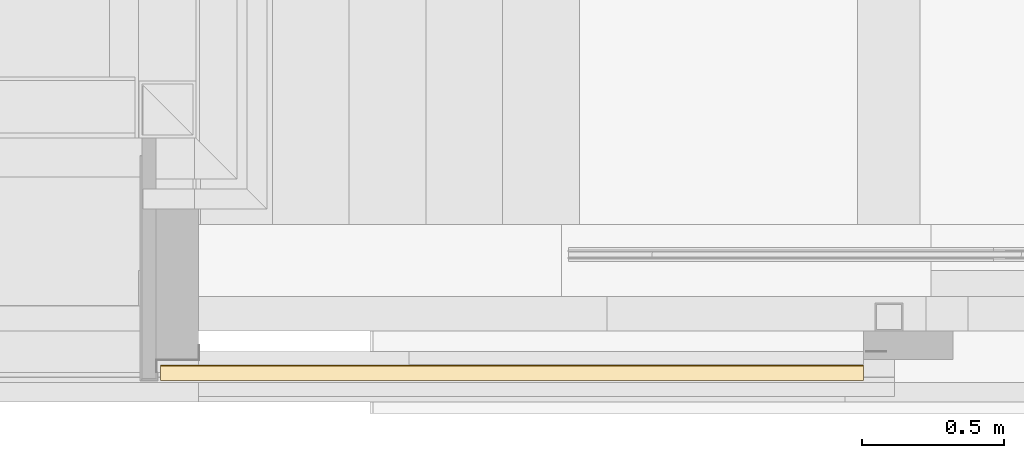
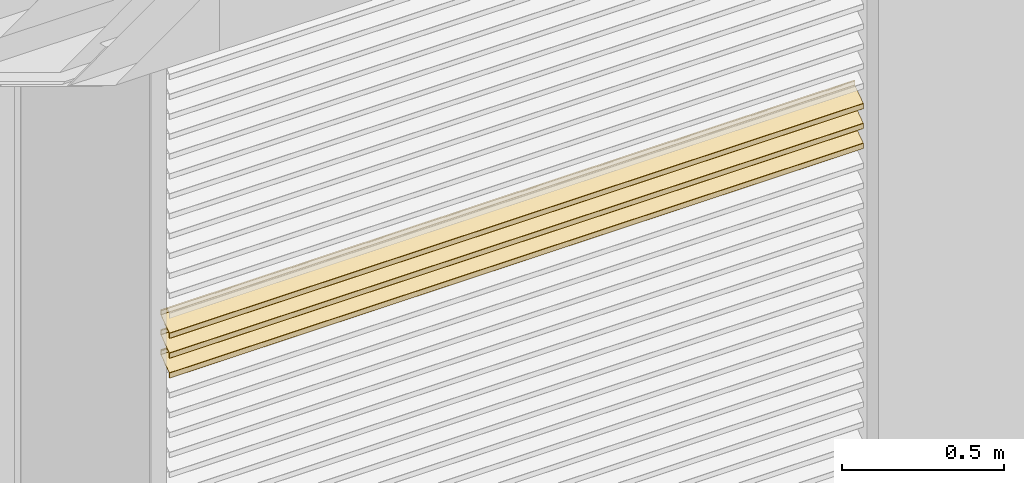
# One storey, part 107 of 165: 3 coverings, 1 element without a shape of its own.
"""IFC2X3 building model written with IfcOpenShell, lengths in millimetres."""

from ifc_helpers import new_model, entity, si_unit, converted_unit, derived_unit, money_unit, direction, frame, origin_with_axes, place, context, subcontext, project, spatial, faceted_brep, material, type_object, element, aggregate, save


model = new_model("IFC2X3")

# Units and contexts
model_context = context("Model", 3, precision=0.01, world=origin_with_axes(), true_north=direction((0.0, 1.0)))
body_context = subcontext(model_context, "Body", "Model", "MODEL_VIEW")
ifc_project = project(units=[si_unit("LENGTHUNIT", "METRE", prefix="MILLI"), si_unit("AREAUNIT", "SQUARE_METRE"), si_unit("VOLUMEUNIT", "CUBIC_METRE"), converted_unit("PLANEANGLEUNIT", "DEGREE", entity("IfcPlaneAngleMeasure", 0.0174532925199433), si_unit("PLANEANGLEUNIT", "RADIAN"), dimensions=[0, 0, 0, 0, 0, 0, 0]), money_unit("EUR"), converted_unit("TIMEUNIT", "Year", entity("IfcTimeMeasure", 31556926.0), si_unit("TIMEUNIT", "SECOND"), dimensions=[0, 0, 1, 0, 0, 0, 0]), si_unit("MASSUNIT", "GRAM", prefix="KILO"), si_unit("THERMODYNAMICTEMPERATUREUNIT", "DEGREE_CELSIUS"), si_unit("LUMINOUSINTENSITYUNIT", "LUMEN"), si_unit("ENERGYUNIT", "JOULE", prefix="MEGA"), derived_unit("THERMALCONDUCTANCEUNIT", [(si_unit("POWERUNIT", "WATT"), 1), (si_unit("LENGTHUNIT", "METRE"), -1), (si_unit("THERMODYNAMICTEMPERATUREUNIT", "KELVIN"), -1)]), derived_unit("SPECIFICHEATCAPACITYUNIT", [(si_unit("ENERGYUNIT", "JOULE"), 1), (si_unit("MASSUNIT", "GRAM", prefix="KILO"), -1), (si_unit("THERMODYNAMICTEMPERATUREUNIT", "KELVIN"), -1)]), derived_unit("MASSDENSITYUNIT", [(si_unit("MASSUNIT", "GRAM", prefix="KILO"), 1), (si_unit("VOLUMEUNIT", "CUBIC_METRE"), -1)])], contexts=[model_context])

# Site, building, storey
site_placement = place(None, origin_with_axes())
site = spatial("IfcSite", under=ifc_project, at=site_placement, Name="Site", CompositionType="ELEMENT")
building_placement = place(site_placement, origin_with_axes())
building = spatial("IfcBuilding", under=site, at=building_placement, Name="Naam gebouw", CompositionType="ELEMENT")
storey_placement = place(building_placement, origin_with_axes())
storey = spatial("IfcBuildingStorey", under=building, at=storey_placement, Name="Begane grond", CompositionType="ELEMENT", Elevation=0.0)

# Beam, coverings
beam_type = type_object("IfcBeamType", Name="30 Duco Louvre deur 55 x 2627", PredefinedType="BEAM")
beam_placement = place(storey_placement, frame((13900.0, -116.9904125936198, 0.0), z_axis=(0.0, 0.0, 1.0), x_axis=(0.0, 1.0, 0.0)))
beam = element("IfcBeam", 1, at=beam_placement, inside=storey, type_object=beam_type, Name="_Regenwaterafvoer-x", ObjectType="BEAM")
ifc_material = material(Name="Metaal - Aluminium")
covering_1_placement = place(beam_placement, origin_with_axes())
covering_1 = element("IfcCovering", 2, at=covering_1_placement, material=ifc_material, Name="Metaal - Aluminium", PredefinedType="NOTDEFINED", context=body_context, shape_type="Brep", body=[
    faceted_brep([(-4.027927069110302, 2473.999999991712, 1433.699501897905), (-56.57357643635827, 2473.999999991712, 1396.906642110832), (-56.57357643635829, 0.0, 1396.906642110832), (-4.027927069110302, 0.0, 1433.699501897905), (-3.90000000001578, 2473.999999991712, 1433.945247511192), (-3.90000000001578, 2473.999999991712, 1449.126428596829), (-3.975892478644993, 2473.999999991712, 1449.325867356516), (-4.165172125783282, 2473.999999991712, 1449.424400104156), (-4.372072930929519, 2473.999999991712, 1449.372174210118), (-5.427927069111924, 2473.999999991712, 1448.632857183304), (-5.634827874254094, 2473.999999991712, 1448.580631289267), (-5.824107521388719, 2473.999999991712, 1448.679164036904), (-5.900000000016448, 2473.999999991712, 1448.878602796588), (-5.900000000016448, 2473.999999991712, 1450.465609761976), (-5.77207293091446, 2473.999999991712, 1450.711355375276), (-2.944145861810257, 2473.999999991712, 1452.691491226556), (-2.530344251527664, 2473.999999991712, 1452.795943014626), (-2.151784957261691, 2473.999999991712, 1452.59887751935), (-2.000000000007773, 2473.999999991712, 1452.199999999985), (-2.000000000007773, 2473.999999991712, 1433.320567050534), (-2.426423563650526, 2473.999999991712, 1432.501415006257), (-26.08018232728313, 2473.999999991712, 1415.938874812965), (-26.40000000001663, 2473.999999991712, 1415.324510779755), (-26.40000000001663, 2473.999999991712, 1412.127817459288), (-26.61966991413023, 2473.999999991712, 1411.597487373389), (-28.05857864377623, 2473.999999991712, 1410.158578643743), (-28.20000000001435, 2473.999999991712, 1410.09999999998), (-28.34142135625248, 2473.999999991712, 1410.158578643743), (-28.40000000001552, 2473.999999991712, 1410.299999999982), (-28.40000000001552, 2473.999999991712, 1412.873784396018), (-28.58973119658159, 2473.999999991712, 1413.372381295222), (-29.06293031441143, 2473.999999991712, 1413.618713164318), (-29.58018232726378, 2473.999999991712, 1413.488148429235), (-30.60000000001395, 2473.999999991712, 1412.774064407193), (-30.60000000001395, 2473.999999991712, 1407.599999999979), (-30.74644660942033, 2473.999999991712, 1407.246446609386), (-31.10000000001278, 2473.999999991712, 1407.09999999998), (-32.10000000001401, 2473.999999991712, 1407.09999999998), (-32.45355339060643, 2473.999999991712, 1407.246446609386), (-32.60000000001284, 2473.999999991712, 1407.599999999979), (-32.60000000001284, 2473.999999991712, 1409.932912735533), (-32.78973119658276, 2473.999999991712, 1410.431509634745), (-33.26293031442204, 2473.999999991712, 1410.677841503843), (-33.780182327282, 2473.999999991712, 1410.547276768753), (-54.97207293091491, 2473.999999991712, 1395.708555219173), (-55.10000000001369, 2473.999999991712, 1395.462809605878), (-55.10000000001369, 2473.999999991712, 1379.973571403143), (-55.02410752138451, 2473.999999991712, 1379.774132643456), (-54.8348278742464, 2473.999999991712, 1379.675599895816), (-54.62792706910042, 2473.999999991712, 1379.727825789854), (-53.57207293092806, 2473.999999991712, 1380.467142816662), (-53.36517212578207, 2473.999999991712, 1380.519368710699), (-53.17589247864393, 2473.999999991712, 1380.42083596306), (-53.1000000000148, 2473.999999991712, 1380.221397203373), (-53.1000000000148, 2473.999999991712, 1378.634390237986), (-53.22792706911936, 2473.999999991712, 1378.388644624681), (-56.05585413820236, 2473.999999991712, 1376.408508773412), (-56.46965574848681, 2473.999999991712, 1376.304056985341), (-56.84821504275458, 2473.999999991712, 1376.501122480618), (-57.00000000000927, 2473.999999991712, 1376.899999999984), (-57.00000000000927, 2473.999999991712, 1396.087490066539), (-57.00000000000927, 0.0, 1396.087490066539), (-57.00000000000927, 0.0, 1376.899999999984), (-56.84821504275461, 0.0, 1376.501122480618), (-56.46965574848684, 0.0, 1376.304056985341), (-56.05585413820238, 0.0, 1376.408508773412), (-53.22792706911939, 0.0, 1378.388644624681), (-53.1000000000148, 0.0, 1378.634390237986), (-53.1000000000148, 0.0, 1380.221397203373), (-53.17589247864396, 0.0, 1380.42083596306), (-53.36517212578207, 0.0, 1380.519368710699), (-53.57207293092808, 0.0, 1380.467142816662), (-54.62792706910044, 0.0, 1379.727825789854), (-54.83482787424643, 0.0, 1379.675599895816), (-55.02410752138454, 0.0, 1379.774132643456), (-55.10000000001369, 0.0, 1379.973571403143), (-55.10000000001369, 0.0, 1395.462809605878), (-54.97207293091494, 0.0, 1395.708555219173), (-33.78018232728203, 0.0, 1410.547276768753), (-33.26293031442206, 0.0, 1410.677841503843), (-32.78973119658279, 0.0, 1410.431509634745), (-32.60000000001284, 0.0, 1409.932912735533), (-32.60000000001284, 0.0, 1407.599999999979), (-32.45355339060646, 0.0, 1407.246446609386), (-32.10000000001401, 0.0, 1407.09999999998), (-31.10000000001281, 0.0, 1407.09999999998), (-30.74644660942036, 0.0, 1407.246446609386), (-30.60000000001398, 0.0, 1407.599999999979), (-30.60000000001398, 0.0, 1412.774064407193), (-29.58018232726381, 0.0, 1413.488148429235), (-29.06293031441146, 0.0, 1413.618713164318), (-28.58973119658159, 0.0, 1413.372381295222), (-28.40000000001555, 0.0, 1412.873784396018), (-28.40000000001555, 0.0, 1410.299999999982), (-28.3414213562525, 0.0, 1410.158578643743), (-28.20000000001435, 0.0, 1410.09999999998), (-28.05857864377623, 0.0, 1410.158578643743), (-26.61966991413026, 0.0, 1411.597487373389), (-26.40000000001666, 0.0, 1412.127817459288), (-26.40000000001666, 0.0, 1415.324510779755), (-26.08018232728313, 0.0, 1415.938874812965), (-2.42642356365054, 0.0, 1432.501415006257), (-2.000000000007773, 0.0, 1433.320567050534), (-2.000000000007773, 0.0, 1452.199999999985), (-2.151784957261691, 0.0, 1452.59887751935), (-2.530344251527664, 0.0, 1452.795943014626), (-2.944145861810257, 0.0, 1452.691491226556), (-5.77207293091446, 0.0, 1450.711355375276), (-5.900000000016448, 0.0, 1450.465609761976), (-5.900000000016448, 0.0, 1448.878602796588), (-5.824107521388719, 0.0, 1448.679164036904), (-5.634827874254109, 0.0, 1448.580631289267), (-5.427927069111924, 0.0, 1448.632857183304), (-4.372072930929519, 0.0, 1449.372174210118), (-4.165172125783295, 0.0, 1449.424400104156), (-3.975892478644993, 0.0, 1449.325867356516), (-3.90000000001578, 0.0, 1449.126428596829), (-3.90000000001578, 0.0, 1433.945247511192)], [[[0, 1, 2, 3]], [[0, 4, 5, 6, 7, 8, 9, 10, 11, 12, 13, 14, 15, 16, 17, 18, 19, 20, 21, 22, 23, 24, 25, 26, 27, 28, 29, 30, 31, 32, 33, 34, 35, 36, 37, 38, 39, 40, 41, 42, 43, 44, 45, 46, 47, 48, 49, 50, 51, 52, 53, 54, 55, 56, 57, 58, 59, 60, 1]], [[1, 60, 61, 2]], [[3, 2, 61, 62, 63, 64, 65, 66, 67, 68, 69, 70, 71, 72, 73, 74, 75, 76, 77, 78, 79, 80, 81, 82, 83, 84, 85, 86, 87, 88, 89, 90, 91, 92, 93, 94, 95, 96, 97, 98, 99, 100, 101, 102, 103, 104, 105, 106, 107, 108, 109, 110, 111, 112, 113, 114, 115, 116, 117]], [[4, 0, 3, 117]], [[5, 4, 117, 116]], [[6, 5, 116, 115]], [[7, 6, 115, 114]], [[8, 7, 114, 113]], [[9, 8, 113, 112]], [[10, 9, 112, 111]], [[11, 10, 111, 110]], [[12, 11, 110, 109]], [[13, 12, 109, 108]], [[14, 13, 108, 107]], [[15, 14, 107, 106]], [[16, 15, 106, 105]], [[17, 16, 105, 104]], [[18, 17, 104, 103]], [[19, 18, 103, 102]], [[20, 19, 102, 101]], [[21, 20, 101, 100]], [[22, 21, 100, 99]], [[23, 22, 99, 98]], [[24, 23, 98, 97]], [[25, 24, 97, 96]], [[26, 25, 96, 95]], [[27, 26, 95, 94]], [[28, 27, 94, 93]], [[29, 28, 93, 92]], [[30, 29, 92, 91]], [[31, 30, 91, 90]], [[32, 31, 90, 89]], [[33, 32, 89, 88]], [[34, 33, 88, 87]], [[35, 34, 87, 86]], [[36, 35, 86, 85]], [[37, 36, 85, 84]], [[38, 37, 84, 83]], [[39, 38, 83, 82]], [[40, 39, 82, 81]], [[41, 40, 81, 80]], [[42, 41, 80, 79]], [[43, 42, 79, 78]], [[44, 43, 78, 77]], [[45, 44, 77, 76]], [[46, 45, 76, 75]], [[47, 46, 75, 74]], [[48, 47, 74, 73]], [[49, 48, 73, 72]], [[50, 49, 72, 71]], [[51, 50, 71, 70]], [[52, 51, 70, 69]], [[53, 52, 69, 68]], [[54, 53, 68, 67]], [[55, 54, 67, 66]], [[56, 55, 66, 65]], [[57, 56, 65, 64]], [[58, 57, 64, 63]], [[59, 58, 63, 62]], [[60, 59, 62, 61]]]),
])
covering_2_placement = place(beam_placement, origin_with_axes())
covering_2 = element("IfcCovering", 3, at=covering_2_placement, material=ifc_material, Name="Metaal - Aluminium", PredefinedType="NOTDEFINED", context=body_context, shape_type="Brep", body=[
    faceted_brep([(-4.027927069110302, 2473.999999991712, 1583.699501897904), (-56.57357643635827, 2473.999999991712, 1546.906642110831), (-56.57357643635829, 0.0, 1546.906642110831), (-4.027927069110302, 0.0, 1583.699501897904), (-3.900000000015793, 2473.999999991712, 1583.94524751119), (-3.900000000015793, 2473.999999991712, 1599.126428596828), (-3.975892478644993, 2473.999999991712, 1599.325867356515), (-4.165172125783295, 2473.999999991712, 1599.424400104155), (-4.372072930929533, 2473.999999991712, 1599.372174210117), (-5.427927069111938, 2473.999999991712, 1598.632857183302), (-5.634827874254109, 2473.999999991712, 1598.580631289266), (-5.824107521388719, 2473.999999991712, 1598.679164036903), (-5.900000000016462, 2473.999999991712, 1598.878602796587), (-5.900000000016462, 2473.999999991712, 1600.465609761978), (-5.772072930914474, 2473.999999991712, 1600.711355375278), (-2.944145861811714, 2473.999999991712, 1602.691491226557), (-2.530344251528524, 2473.999999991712, 1602.795943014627), (-2.15178495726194, 2473.999999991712, 1602.598877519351), (-2.000000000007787, 2473.999999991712, 1602.199999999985), (-2.000000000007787, 2473.999999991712, 1583.320567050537), (-2.426423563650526, 2473.999999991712, 1582.50141500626), (-26.08018232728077, 2473.999999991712, 1565.938874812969), (-26.40000000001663, 2473.999999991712, 1565.324510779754), (-26.40000000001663, 2473.999999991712, 1562.127817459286), (-26.61966991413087, 2473.999999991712, 1561.597487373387), (-28.0585786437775, 2473.999999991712, 1560.158578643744), (-28.20000000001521, 2473.999999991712, 1560.099999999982), (-28.34142135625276, 2473.999999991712, 1560.158578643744), (-28.40000000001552, 2473.999999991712, 1560.299999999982), (-28.40000000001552, 2473.999999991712, 1562.873784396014), (-28.58973119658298, 2473.999999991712, 1563.372381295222), (-29.06293031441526, 2473.999999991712, 1563.618713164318), (-29.58018232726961, 2473.999999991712, 1563.488148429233), (-30.60000000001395, 2473.999999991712, 1562.774064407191), (-30.60000000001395, 2473.999999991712, 1557.599999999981), (-30.74644660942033, 2473.999999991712, 1557.246446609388), (-31.10000000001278, 2473.999999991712, 1557.099999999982), (-32.10000000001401, 2473.999999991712, 1557.099999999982), (-32.45355339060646, 2473.999999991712, 1557.246446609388), (-32.60000000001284, 2473.999999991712, 1557.599999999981), (-32.60000000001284, 2473.999999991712, 1559.932912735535), (-32.78973119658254, 2473.999999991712, 1560.431509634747), (-33.26293031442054, 2473.999999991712, 1560.677841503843), (-33.78018232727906, 2473.999999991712, 1560.547276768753), (-54.9720729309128, 2473.999999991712, 1545.708555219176), (-55.10000000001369, 2473.999999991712, 1545.462809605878), (-55.10000000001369, 2473.999999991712, 1529.973571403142), (-55.02410752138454, 2473.999999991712, 1529.774132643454), (-54.8348278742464, 2473.999999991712, 1529.675599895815), (-54.62792706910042, 2473.999999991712, 1529.727825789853), (-53.57207293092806, 2473.999999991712, 1530.46714281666), (-53.36517212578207, 2473.999999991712, 1530.519368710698), (-53.17589247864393, 2473.999999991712, 1530.420835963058), (-53.1000000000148, 2473.999999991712, 1530.221397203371), (-53.1000000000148, 2473.999999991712, 1528.634390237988), (-53.22792706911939, 2473.999999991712, 1528.388644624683), (-56.05585413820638, 2473.999999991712, 1526.408508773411), (-56.46965574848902, 2473.999999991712, 1526.304056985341), (-56.84821504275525, 2473.999999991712, 1526.501122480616), (-57.00000000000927, 2473.999999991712, 1526.899999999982), (-57.00000000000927, 2473.999999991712, 1546.087490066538), (-57.00000000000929, 0.0, 1546.087490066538), (-57.00000000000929, 0.0, 1526.899999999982), (-56.84821504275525, 0.0, 1526.501122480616), (-56.46965574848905, 0.0, 1526.304056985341), (-56.05585413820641, 0.0, 1526.408508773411), (-53.22792706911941, 0.0, 1528.388644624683), (-53.10000000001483, 0.0, 1528.634390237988), (-53.10000000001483, 0.0, 1530.221397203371), (-53.17589247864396, 0.0, 1530.420835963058), (-53.3651721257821, 0.0, 1530.519368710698), (-53.57207293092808, 0.0, 1530.46714281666), (-54.62792706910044, 0.0, 1529.727825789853), (-54.83482787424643, 0.0, 1529.675599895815), (-55.02410752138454, 0.0, 1529.774132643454), (-55.10000000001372, 0.0, 1529.973571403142), (-55.10000000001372, 0.0, 1545.462809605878), (-54.97207293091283, 0.0, 1545.708555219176), (-33.78018232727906, 0.0, 1560.547276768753), (-33.26293031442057, 0.0, 1560.677841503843), (-32.78973119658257, 0.0, 1560.431509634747), (-32.60000000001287, 0.0, 1559.932912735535), (-32.60000000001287, 0.0, 1557.599999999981), (-32.45355339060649, 0.0, 1557.246446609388), (-32.10000000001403, 0.0, 1557.099999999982), (-31.10000000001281, 0.0, 1557.099999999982), (-30.74644660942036, 0.0, 1557.246446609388), (-30.60000000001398, 0.0, 1557.599999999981), (-30.60000000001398, 0.0, 1562.774064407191), (-29.58018232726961, 0.0, 1563.488148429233), (-29.06293031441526, 0.0, 1563.618713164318), (-28.58973119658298, 0.0, 1563.372381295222), (-28.40000000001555, 0.0, 1562.873784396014), (-28.40000000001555, 0.0, 1560.299999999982), (-28.34142135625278, 0.0, 1560.158578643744), (-28.20000000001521, 0.0, 1560.099999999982), (-28.0585786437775, 0.0, 1560.158578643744), (-26.6196699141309, 0.0, 1561.597487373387), (-26.40000000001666, 0.0, 1562.127817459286), (-26.40000000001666, 0.0, 1565.324510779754), (-26.08018232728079, 0.0, 1565.938874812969), (-2.42642356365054, 0.0, 1582.50141500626), (-2.000000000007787, 0.0, 1583.320567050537), (-2.000000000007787, 0.0, 1602.199999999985), (-2.15178495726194, 0.0, 1602.598877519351), (-2.530344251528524, 0.0, 1602.795943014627), (-2.944145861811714, 0.0, 1602.691491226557), (-5.772072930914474, 0.0, 1600.711355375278), (-5.900000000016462, 0.0, 1600.465609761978), (-5.900000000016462, 0.0, 1598.878602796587), (-5.824107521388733, 0.0, 1598.679164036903), (-5.634827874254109, 0.0, 1598.580631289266), (-5.427927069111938, 0.0, 1598.632857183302), (-4.372072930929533, 0.0, 1599.372174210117), (-4.165172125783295, 0.0, 1599.424400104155), (-3.975892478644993, 0.0, 1599.325867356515), (-3.900000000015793, 0.0, 1599.126428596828), (-3.900000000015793, 0.0, 1583.94524751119)], [[[0, 1, 2, 3]], [[0, 4, 5, 6, 7, 8, 9, 10, 11, 12, 13, 14, 15, 16, 17, 18, 19, 20, 21, 22, 23, 24, 25, 26, 27, 28, 29, 30, 31, 32, 33, 34, 35, 36, 37, 38, 39, 40, 41, 42, 43, 44, 45, 46, 47, 48, 49, 50, 51, 52, 53, 54, 55, 56, 57, 58, 59, 60, 1]], [[1, 60, 61, 2]], [[3, 2, 61, 62, 63, 64, 65, 66, 67, 68, 69, 70, 71, 72, 73, 74, 75, 76, 77, 78, 79, 80, 81, 82, 83, 84, 85, 86, 87, 88, 89, 90, 91, 92, 93, 94, 95, 96, 97, 98, 99, 100, 101, 102, 103, 104, 105, 106, 107, 108, 109, 110, 111, 112, 113, 114, 115, 116, 117]], [[4, 0, 3, 117]], [[5, 4, 117, 116]], [[6, 5, 116, 115]], [[7, 6, 115, 114]], [[8, 7, 114, 113]], [[9, 8, 113, 112]], [[10, 9, 112, 111]], [[11, 10, 111, 110]], [[12, 11, 110, 109]], [[13, 12, 109, 108]], [[14, 13, 108, 107]], [[15, 14, 107, 106]], [[16, 15, 106, 105]], [[17, 16, 105, 104]], [[18, 17, 104, 103]], [[19, 18, 103, 102]], [[20, 19, 102, 101]], [[21, 20, 101, 100]], [[22, 21, 100, 99]], [[23, 22, 99, 98]], [[24, 23, 98, 97]], [[25, 24, 97, 96]], [[26, 25, 96, 95]], [[27, 26, 95, 94]], [[28, 27, 94, 93]], [[29, 28, 93, 92]], [[30, 29, 92, 91]], [[31, 30, 91, 90]], [[32, 31, 90, 89]], [[33, 32, 89, 88]], [[34, 33, 88, 87]], [[35, 34, 87, 86]], [[36, 35, 86, 85]], [[37, 36, 85, 84]], [[38, 37, 84, 83]], [[39, 38, 83, 82]], [[40, 39, 82, 81]], [[41, 40, 81, 80]], [[42, 41, 80, 79]], [[43, 42, 79, 78]], [[44, 43, 78, 77]], [[45, 44, 77, 76]], [[46, 45, 76, 75]], [[47, 46, 75, 74]], [[48, 47, 74, 73]], [[49, 48, 73, 72]], [[50, 49, 72, 71]], [[51, 50, 71, 70]], [[52, 51, 70, 69]], [[53, 52, 69, 68]], [[54, 53, 68, 67]], [[55, 54, 67, 66]], [[56, 55, 66, 65]], [[57, 56, 65, 64]], [[58, 57, 64, 63]], [[59, 58, 63, 62]], [[60, 59, 62, 61]]]),
])
covering_3_placement = place(beam_placement, origin_with_axes())
covering_3 = element("IfcCovering", 4, at=covering_3_placement, material=ifc_material, Name="Metaal - Aluminium", PredefinedType="NOTDEFINED", context=body_context, shape_type="Brep", body=[
    faceted_brep([(-4.027927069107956, 2473.999999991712, 1508.69950189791), (-56.57357643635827, 2473.999999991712, 1471.906642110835), (-56.57357643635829, 0.0, 1471.906642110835), (-4.02792706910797, 0.0, 1508.69950189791), (-3.90000000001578, 2473.999999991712, 1508.945247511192), (-3.90000000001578, 2473.999999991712, 1524.126428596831), (-3.975892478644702, 2473.999999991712, 1524.325867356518), (-4.165172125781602, 2473.999999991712, 1524.424400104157), (-4.372072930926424, 2473.999999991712, 1524.37217421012), (-5.427927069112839, 2473.999999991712, 1523.632857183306), (-5.634827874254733, 2473.999999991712, 1523.58063128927), (-5.824107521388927, 2473.999999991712, 1523.679164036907), (-5.900000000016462, 2473.999999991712, 1523.878602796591), (-5.900000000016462, 2473.999999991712, 1525.465609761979), (-5.77207293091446, 2473.999999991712, 1525.711355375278), (-2.944145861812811, 2473.999999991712, 1527.691491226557), (-2.530344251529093, 2473.999999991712, 1527.795943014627), (-2.151784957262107, 2473.999999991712, 1527.598877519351), (-2.000000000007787, 2473.999999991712, 1527.199999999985), (-2.000000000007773, 2473.999999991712, 1508.320567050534), (-2.42642356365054, 2473.999999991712, 1507.501415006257), (-26.08018232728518, 2473.999999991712, 1490.938874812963), (-26.40000000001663, 2473.999999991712, 1490.324510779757), (-26.40000000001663, 2473.999999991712, 1487.12781745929), (-26.61966991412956, 2473.999999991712, 1486.597487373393), (-28.05857864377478, 2473.999999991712, 1485.158578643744), (-28.20000000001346, 2473.999999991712, 1485.099999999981), (-28.34142135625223, 2473.999999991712, 1485.158578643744), (-28.40000000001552, 2473.999999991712, 1485.299999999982), (-28.40000000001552, 2473.999999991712, 1487.873784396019), (-28.58973119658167, 2473.999999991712, 1488.372381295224), (-29.06293031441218, 2473.999999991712, 1488.61871316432), (-29.58018232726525, 2473.999999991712, 1488.488148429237), (-30.60000000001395, 2473.999999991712, 1487.774064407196), (-30.60000000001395, 2473.999999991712, 1482.59999999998), (-30.74644660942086, 2473.999999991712, 1482.246446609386), (-31.10000000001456, 2473.999999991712, 1482.099999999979), (-32.10000000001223, 2473.999999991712, 1482.099999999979), (-32.45355339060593, 2473.999999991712, 1482.246446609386), (-32.60000000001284, 2473.999999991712, 1482.59999999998), (-32.60000000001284, 2473.999999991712, 1484.932912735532), (-32.78973119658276, 2473.999999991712, 1485.431509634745), (-33.26293031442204, 2473.999999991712, 1485.677841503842), (-33.780182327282, 2473.999999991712, 1485.547276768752), (-54.97207293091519, 2473.999999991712, 1470.708555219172), (-55.10000000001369, 2473.999999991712, 1470.462809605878), (-55.10000000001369, 2473.999999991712, 1454.973571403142), (-55.02410752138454, 2473.999999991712, 1454.774132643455), (-54.8348278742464, 2473.999999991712, 1454.675599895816), (-54.62792706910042, 2473.999999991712, 1454.727825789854), (-53.57207293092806, 2473.999999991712, 1455.467142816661), (-53.36517212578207, 2473.999999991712, 1455.519368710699), (-53.17589247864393, 2473.999999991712, 1455.420835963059), (-53.1000000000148, 2473.999999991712, 1455.221397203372), (-53.1000000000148, 2473.999999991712, 1453.634390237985), (-53.22792706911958, 2473.999999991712, 1453.38864462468), (-56.05585413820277, 2473.999999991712, 1451.408508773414), (-56.46965574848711, 2473.999999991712, 1451.304056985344), (-56.8482150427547, 2473.999999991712, 1451.50112248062), (-57.00000000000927, 2473.999999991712, 1451.899999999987), (-57.00000000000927, 2473.999999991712, 1471.087490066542), (-57.00000000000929, 0.0, 1471.087490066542), (-57.00000000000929, 0.0, 1451.899999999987), (-56.84821504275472, 0.0, 1451.50112248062), (-56.46965574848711, 0.0, 1451.304056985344), (-56.0558541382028, 0.0, 1451.408508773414), (-53.22792706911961, 0.0, 1453.38864462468), (-53.10000000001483, 0.0, 1453.634390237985), (-53.10000000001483, 0.0, 1455.221397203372), (-53.17589247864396, 0.0, 1455.420835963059), (-53.3651721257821, 0.0, 1455.519368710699), (-53.57207293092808, 0.0, 1455.467142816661), (-54.62792706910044, 0.0, 1454.727825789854), (-54.83482787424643, 0.0, 1454.675599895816), (-55.02410752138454, 0.0, 1454.774132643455), (-55.10000000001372, 0.0, 1454.973571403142), (-55.10000000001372, 0.0, 1470.462809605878), (-54.97207293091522, 0.0, 1470.708555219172), (-33.78018232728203, 0.0, 1485.547276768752), (-33.26293031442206, 0.0, 1485.677841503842), (-32.78973119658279, 0.0, 1485.431509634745), (-32.60000000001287, 0.0, 1484.932912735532), (-32.60000000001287, 0.0, 1482.59999999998), (-32.45355339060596, 0.0, 1482.246446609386), (-32.10000000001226, 0.0, 1482.099999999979), (-31.10000000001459, 0.0, 1482.099999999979), (-30.74644660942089, 0.0, 1482.246446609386), (-30.60000000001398, 0.0, 1482.59999999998), (-30.60000000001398, 0.0, 1487.774064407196), (-29.58018232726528, 0.0, 1488.488148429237), (-29.06293031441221, 0.0, 1488.61871316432), (-28.5897311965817, 0.0, 1488.372381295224), (-28.40000000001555, 0.0, 1487.873784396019), (-28.40000000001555, 0.0, 1485.299999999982), (-28.34142135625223, 0.0, 1485.158578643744), (-28.20000000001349, 0.0, 1485.099999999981), (-28.05857864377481, 0.0, 1485.158578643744), (-26.61966991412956, 0.0, 1486.597487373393), (-26.40000000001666, 0.0, 1487.12781745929), (-26.40000000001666, 0.0, 1490.324510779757), (-26.08018232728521, 0.0, 1490.938874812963), (-2.42642356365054, 0.0, 1507.501415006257), (-2.000000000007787, 0.0, 1508.320567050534), (-2.000000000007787, 0.0, 1527.199999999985), (-2.151784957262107, 0.0, 1527.598877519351), (-2.530344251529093, 0.0, 1527.795943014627), (-2.944145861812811, 0.0, 1527.691491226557), (-5.77207293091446, 0.0, 1525.711355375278), (-5.900000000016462, 0.0, 1525.465609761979), (-5.900000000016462, 0.0, 1523.878602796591), (-5.824107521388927, 0.0, 1523.679164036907), (-5.634827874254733, 0.0, 1523.58063128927), (-5.427927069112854, 0.0, 1523.632857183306), (-4.372072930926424, 0.0, 1524.37217421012), (-4.165172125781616, 0.0, 1524.424400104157), (-3.975892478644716, 0.0, 1524.325867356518), (-3.900000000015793, 0.0, 1524.126428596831), (-3.900000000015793, 0.0, 1508.945247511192)], [[[0, 1, 2, 3]], [[0, 4, 5, 6, 7, 8, 9, 10, 11, 12, 13, 14, 15, 16, 17, 18, 19, 20, 21, 22, 23, 24, 25, 26, 27, 28, 29, 30, 31, 32, 33, 34, 35, 36, 37, 38, 39, 40, 41, 42, 43, 44, 45, 46, 47, 48, 49, 50, 51, 52, 53, 54, 55, 56, 57, 58, 59, 60, 1]], [[1, 60, 61, 2]], [[3, 2, 61, 62, 63, 64, 65, 66, 67, 68, 69, 70, 71, 72, 73, 74, 75, 76, 77, 78, 79, 80, 81, 82, 83, 84, 85, 86, 87, 88, 89, 90, 91, 92, 93, 94, 95, 96, 97, 98, 99, 100, 101, 102, 103, 104, 105, 106, 107, 108, 109, 110, 111, 112, 113, 114, 115, 116, 117]], [[4, 0, 3, 117]], [[5, 4, 117, 116]], [[6, 5, 116, 115]], [[7, 6, 115, 114]], [[8, 7, 114, 113]], [[9, 8, 113, 112]], [[10, 9, 112, 111]], [[11, 10, 111, 110]], [[12, 11, 110, 109]], [[13, 12, 109, 108]], [[14, 13, 108, 107]], [[15, 14, 107, 106]], [[16, 15, 106, 105]], [[17, 16, 105, 104]], [[18, 17, 104, 103]], [[19, 18, 103, 102]], [[20, 19, 102, 101]], [[21, 20, 101, 100]], [[22, 21, 100, 99]], [[23, 22, 99, 98]], [[24, 23, 98, 97]], [[25, 24, 97, 96]], [[26, 25, 96, 95]], [[27, 26, 95, 94]], [[28, 27, 94, 93]], [[29, 28, 93, 92]], [[30, 29, 92, 91]], [[31, 30, 91, 90]], [[32, 31, 90, 89]], [[33, 32, 89, 88]], [[34, 33, 88, 87]], [[35, 34, 87, 86]], [[36, 35, 86, 85]], [[37, 36, 85, 84]], [[38, 37, 84, 83]], [[39, 38, 83, 82]], [[40, 39, 82, 81]], [[41, 40, 81, 80]], [[42, 41, 80, 79]], [[43, 42, 79, 78]], [[44, 43, 78, 77]], [[45, 44, 77, 76]], [[46, 45, 76, 75]], [[47, 46, 75, 74]], [[48, 47, 74, 73]], [[49, 48, 73, 72]], [[50, 49, 72, 71]], [[51, 50, 71, 70]], [[52, 51, 70, 69]], [[53, 52, 69, 68]], [[54, 53, 68, 67]], [[55, 54, 67, 66]], [[56, 55, 66, 65]], [[57, 56, 65, 64]], [[58, 57, 64, 63]], [[59, 58, 63, 62]], [[60, 59, 62, 61]]]),
])
aggregate(beam, [covering_1, covering_2, covering_3])

save(model, "model.ifc")
